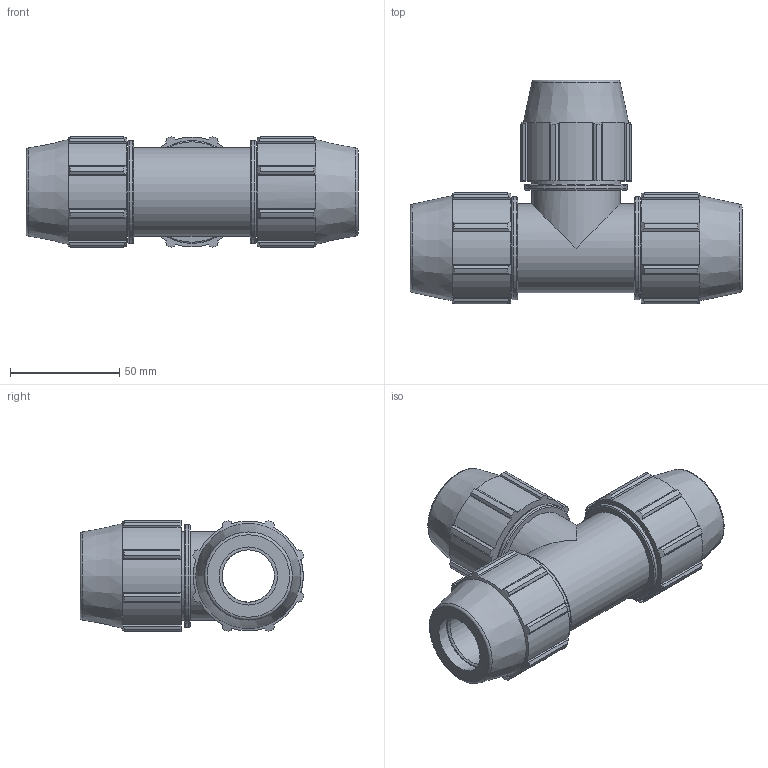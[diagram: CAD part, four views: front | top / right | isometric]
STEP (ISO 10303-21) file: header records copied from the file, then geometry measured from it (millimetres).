
FILE_DESCRIPTION(/* description */ ('PLASSON TEE 3/4'''' - 3/4'''' - 3/4'''''),/* implementation_level */ '2;1');
FILE_NAME(/* name */ 'C:\Dropbox\KIMPROJECTS-Inventor 2019\99-16-3568-Processing Inch\ASTM Compression 2021\0704M0\0704M0070.ipt.stp',/* time_stamp */ '2021-08-26T12:31:21+03:00',/* author */ ('KIM'),/* organization */ (''),/* preprocessor_version */ 'ST-DEVELOPER v17.2',/* originating_system */ 'Autodesk Inventor 2019',/* authorisation */ '');
FILE_SCHEMA (('AUTOMOTIVE_DESIGN { 1 0 10303 214 3 1 1 }'));
Length unit declared in the file: inch
Products named in the file (1): 0704M0070
Bounding box: 151.89 x 102.42 x 50.91 mm (x, y, z)
Volume: 233337.3 mm3; surface area: 56377.7 mm2
Topology: 1 solids, 1 shells, 212 faces, 626 edges, 430 vertices
Faces by surface type: plane 114, cylinder 61, cone 28, torus 9
Full cylindrical faces by diameter (mm): 23.94 x2, 26.6 x3, 40.576 x5, 47.069 x3
Entity records: 7404 total; most frequent: CARTESIAN_POINT 1429, ORIENTED_EDGE 1252, DIRECTION 1203, EDGE_CURVE 626, AXIS2_PLACEMENT_3D 444, VERTEX_POINT 430, LINE 315, VECTOR 315
